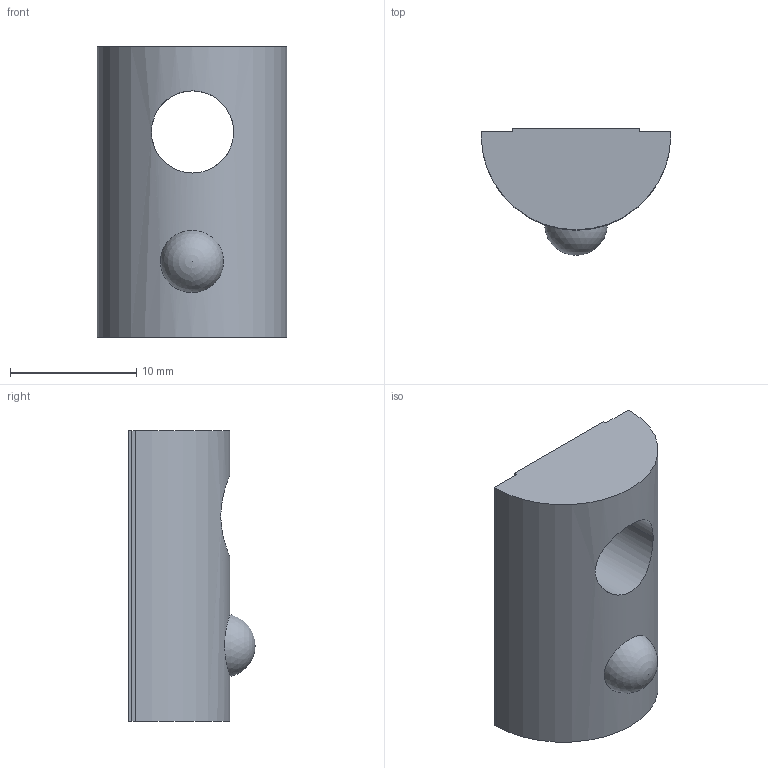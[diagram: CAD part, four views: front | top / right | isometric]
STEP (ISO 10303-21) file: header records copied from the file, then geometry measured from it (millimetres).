
FILE_DESCRIPTION (( 'STEP AP203' ), '1' );
FILE_NAME ('5061.STEP', '2017-02-02T09:01:38', ( 'RosInstal-MKM' ), ( '' ), 'SwSTEP 2.0', 'SolidWorks 2014', '' );
FILE_SCHEMA (( 'CONFIG_CONTROL_DESIGN' ));
Length unit declared in the file: millimetre
Products named in the file (1): 5061
Bounding box: 15.01 x 9.99 x 23 mm (x, y, z)
Volume: 1913.9 mm3; surface area: 1230 mm2
Topology: 1 solids, 2 shells, 17 faces, 45 edges, 31 vertices
Faces by surface type: plane 8, cylinder 5, cone 2, sphere 2
Entity records: 697 total; most frequent: CARTESIAN_POINT 212, DIRECTION 86, ORIENTED_EDGE 80, EDGE_CURVE 40, AXIS2_PLACEMENT_3D 32, VERTEX_POINT 28, LINE 22, VECTOR 22
